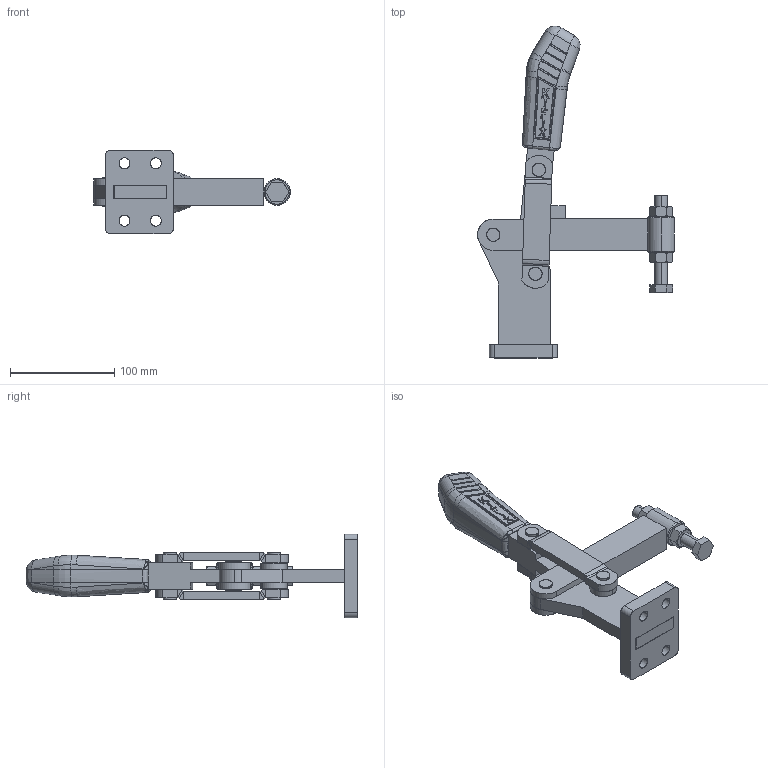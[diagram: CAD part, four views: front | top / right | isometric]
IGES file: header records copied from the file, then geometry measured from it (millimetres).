
Start section: SolidWorks IGES file using analytic representation for surfaces
Global section: file name: C:\Projetos\Grampos\KF-066\KF-066 TS\KF-066 TS.IGS; native system: SolidWorks 2013; preprocessor: SolidWorks 2013; author: Ricardo; date: 140813.160946; units: millimetre
Bounding box: 188.42 x 317.74 x 80 mm (x, y, z)
Surface area: 137953.6 mm2 (no closed solid volume)
Topology: 0 solids, 0 shells, 840 faces, 10227 edges, 10219 vertices
Faces by surface type: bspline 503, revolution 337
